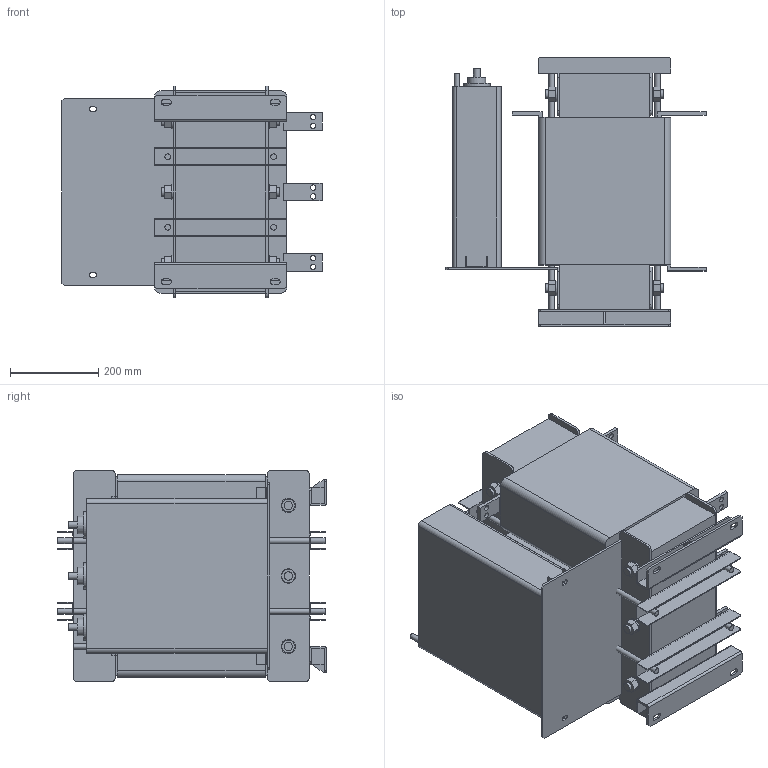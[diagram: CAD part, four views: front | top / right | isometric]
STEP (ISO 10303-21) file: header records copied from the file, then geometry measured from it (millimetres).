
FILE_DESCRIPTION(/* description */ (''),/* implementation_level */ '2;1');
FILE_NAME(/* name */ 'Sin-T6-600.stp',/* time_stamp */ '2025-02-25T11:06:12+04:00',/* author */ ('Лео'),/* organization */ (''),/* preprocessor_version */ 'ST-DEVELOPER v19.2',/* originating_system */ 'Autodesk Inventor 2024',/* authorisation */ '');
FILE_SCHEMA (('AUTOMOTIVE_DESIGN { 1 0 10303 214 3 1 1 }'));
Length unit declared in the file: millimetre
Products named in the file (1): Sin-T6-600
Bounding box: 590 x 610 x 480 mm (x, y, z)
Volume: 79202697 mm3; surface area: 3189785.4 mm2
Topology: 26 solids, 26 shells, 586 faces, 1328 edges, 828 vertices
Faces by surface type: plane 466, cylinder 120
Full cylindrical faces by diameter (mm): 12 x19, 13 x12, 15 x3, 19 x12, 32.562 x12, 40 x3, 60 x3
Entity records: 16258 total; most frequent: DIRECTION 2814, CARTESIAN_POINT 2743, ORIENTED_EDGE 2656, EDGE_CURVE 1328, LINE 1016, VECTOR 1016, AXIS2_PLACEMENT_3D 899, VERTEX_POINT 828
